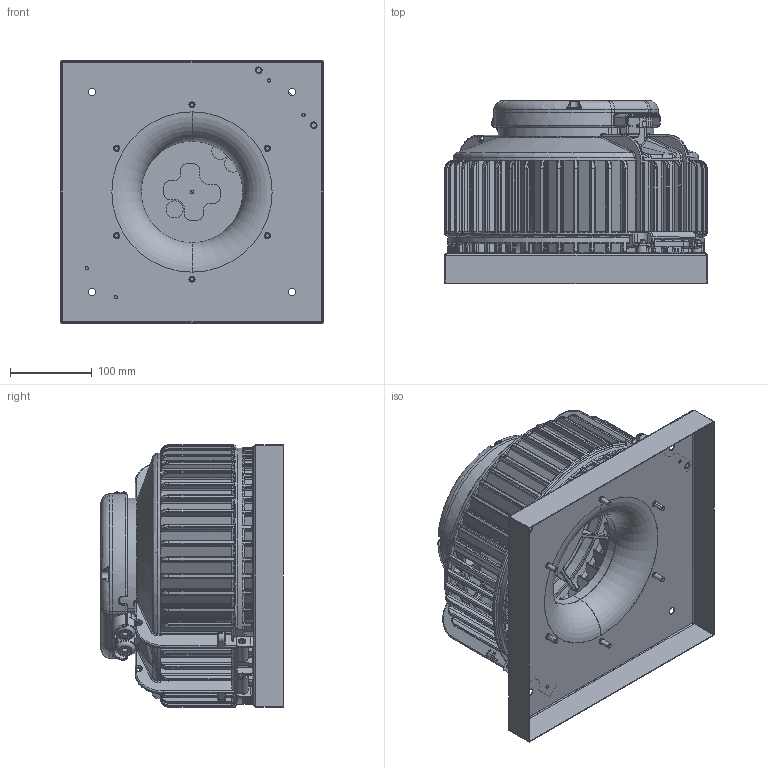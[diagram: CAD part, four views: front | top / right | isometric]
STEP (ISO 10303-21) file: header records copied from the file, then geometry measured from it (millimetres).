
FILE_DESCRIPTION (( 'STEP AP203' ), '1' );
FILE_NAME ('165075_00_DHA190ECOPS01_step.step', '2022-10-10T09:20:35', ( '' ), ( '' ), 'SwSTEP 2.0', 'SolidWorks 2021', '' );
FILE_SCHEMA (( 'CONFIG_CONTROL_DESIGN' ));
Products named in the file (1): 165075_00_DHA190ECOPS01_step
Bounding box: 321 x 223.4 x 321 mm (x, y, z)
Surface area: 846300.5 mm2 (no closed solid volume)
Topology: 0 solids, 44 shells, 2378 faces, 8233 edges, 5611 vertices
Faces by surface type: cylinder 776, plane 582, torus 505, bspline 417, cone 79, sphere 19
Entity records: 114834 total; most frequent: CARTESIAN_POINT 50083, ORIENTED_EDGE 13421, DIRECTION 12411, EDGE_CURVE 8220, VERTEX_POINT 5610, AXIS2_PLACEMENT_3D 4769, VECTOR 2873, LINE 2873
